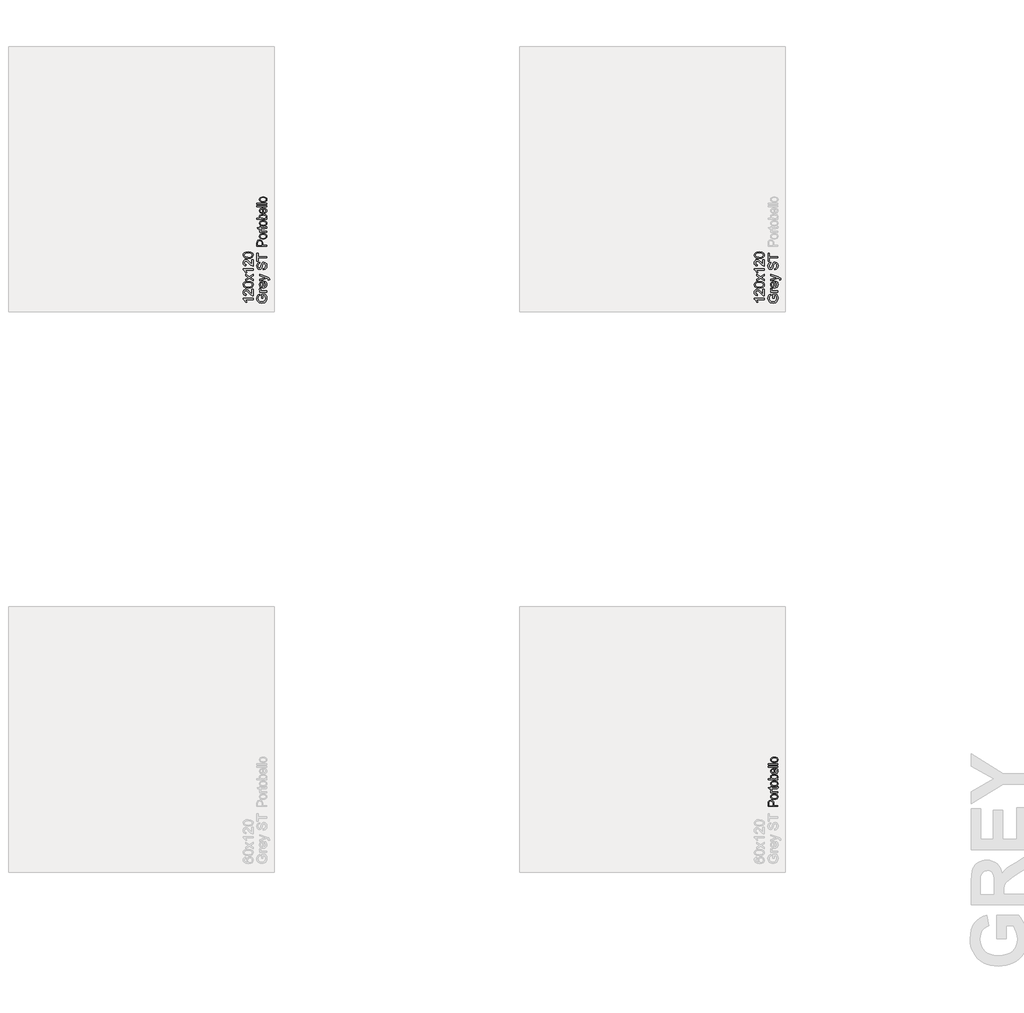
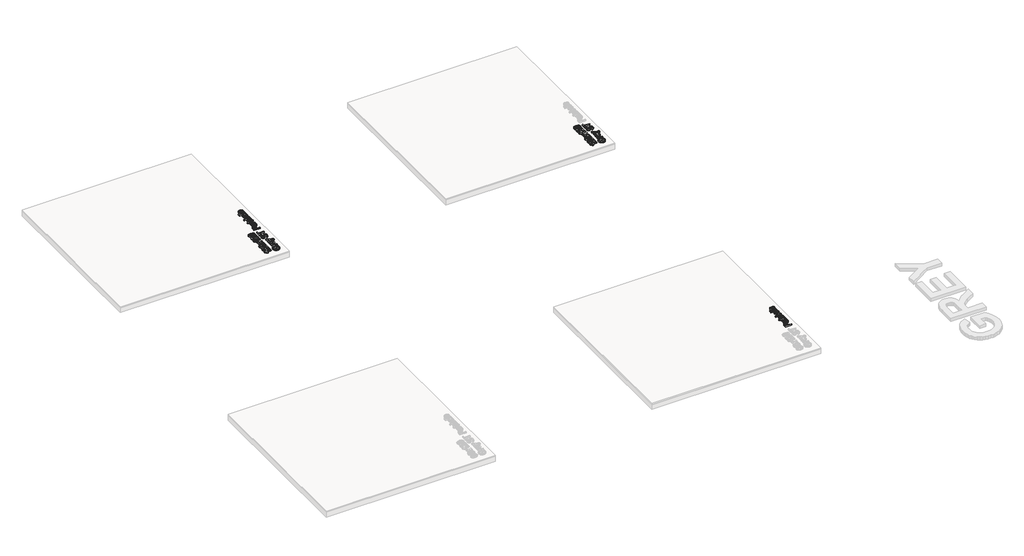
# One storey, part 11 of 12: 6 proxies.
"""IFC4 building model written with IfcOpenShell, lengths in millimetres."""

import ifcopenshell
import ifcopenshell.guid

model = None  # the IFC model being written
_history = None  # IfcOwnerHistory: only IFC2X3 demands one
_inside = {}  # id of a spatial element -> (the spatial element, [elements in it])
_under = {}  # id of a project, library or spatial element -> (it, [spatial elements below it])
_declared = {}  # id of a project -> (the project, [libraries it declares])
_typed = {}  # id of a type object -> (the type object, [elements of that type])
_made_of = {}  # id of a material, layer set ... -> (it, [elements and type objects made of it])


def new_model(schema):
    """Start an empty IFC model of exactly this schema.

    Asked for "IFC4X3", IfcOpenShell would pick the latest addendum, in which some entities
    have other attributes; the version numbers below select the first issue.
    IFC2X3 requires an IfcOwnerHistory on every rooted entity: one is made here for all.
    """
    global model, _history
    if schema == "IFC4X3":
        model = ifcopenshell.file(schema_version=(4, 3, 0, 0))
    else:
        model = ifcopenshell.file(schema=schema)
    _inside.clear()
    _under.clear()
    _declared.clear()
    _typed.clear()
    _made_of.clear()
    _history = None
    if model.schema == "IFC2X3":
        org = make("IfcOrganization", Name="unknown")
        user = make(
            "IfcPersonAndOrganization",
            ThePerson=make("IfcPerson", FamilyName="unknown"),
            TheOrganization=org,
        )
        app = make(
            "IfcApplication",
            ApplicationDeveloper=org,
            Version="unknown",
            ApplicationFullName="unknown",
            ApplicationIdentifier="unknown",
        )
        _history = make(
            "IfcOwnerHistory",
            OwningUser=user,
            OwningApplication=app,
            ChangeAction="ADDED",
            CreationDate=0,
        )
    return model


def make(cls, **values):
    """One entity of the class cls with the attributes given. An attribute that is None is left unset."""
    return model.create_entity(
        cls, **{name: value for name, value in values.items() if value is not None}
    )


def rooted(cls, **values):
    """An entity with a GlobalId (a new one), such as an element, a storey or a relation."""
    return make(cls, GlobalId=ifcopenshell.guid.new(), OwnerHistory=_history, **values)


def si_unit(unit_type, name, prefix=None):
    """IfcSIUnit, for example si_unit("LENGTHUNIT", "METRE", prefix="MILLI")."""
    return make("IfcSIUnit", UnitType=unit_type, Prefix=prefix, Name=name)


def assignment(units):
    """IfcUnitAssignment: the units of a project."""
    return None if units is None else make("IfcUnitAssignment", Units=units)


def point(xyz):
    """IfcCartesianPoint."""
    return None if xyz is None else make("IfcCartesianPoint", Coordinates=xyz)


def direction(xyz):
    """IfcDirection."""
    return None if xyz is None else make("IfcDirection", DirectionRatios=xyz)


def frame(location, z_axis=None, x_axis=None):
    """IfcAxis2Placement3D, a coordinate frame: its origin and axes. An axis left out is left unset."""
    return make(
        "IfcAxis2Placement3D",
        Location=point(location),
        Axis=direction(z_axis),
        RefDirection=direction(x_axis),
    )


def origin():
    """The frame at (0, 0, 0) with its axes left unset."""
    return frame((0.0, 0.0, 0.0))


def place(relative_to, where):
    """IfcLocalPlacement: puts the frame where relative to a parent placement (None: the world)."""
    return make(
        "IfcLocalPlacement", PlacementRelTo=relative_to, RelativePlacement=where
    )


def context(
    kind, dimensions, precision=None, world=None, true_north=None, identifier=None
):
    """IfcGeometricRepresentationContext, for example the 3D "Model" context."""
    return make(
        "IfcGeometricRepresentationContext",
        ContextIdentifier=identifier,
        ContextType=kind,
        CoordinateSpaceDimension=dimensions,
        Precision=precision,
        WorldCoordinateSystem=world,
        TrueNorth=true_north,
    )


def project(units=None, contexts=None):
    """IfcProject with its units and contexts."""
    return rooted(
        "IfcProject",
        Name="project",
        RepresentationContexts=contexts,
        UnitsInContext=assignment(units),
    )


def spatial(cls, under=None, at=None, **own):
    """A site, building, storey or space (cls), placed at a placement, below another one or the project."""
    s = rooted(cls, ObjectPlacement=at, **own)
    if under is not None:
        _under.setdefault(under.id(), (under, []))[1].append(s)
    return s


def polyline(points):
    """IfcPolyline through the points."""
    return make("IfcPolyline", Points=[point(p) for p in points])


def outline(outer, holes=None, kind="AREA"):
    """IfcArbitraryClosedProfileDef: a profile drawn as a closed curve; with holes, ...WithVoids."""
    if holes is None:
        return make("IfcArbitraryClosedProfileDef", ProfileType=kind, OuterCurve=outer)
    return make(
        "IfcArbitraryProfileDefWithVoids",
        ProfileType=kind,
        OuterCurve=outer,
        InnerCurves=holes,
    )


def extrude(swept, where, along, depth):
    """IfcExtrudedAreaSolid: the profile swept, set in the frame where, extruded along a direction by depth."""
    return make(
        "IfcExtrudedAreaSolid",
        SweptArea=swept,
        Position=where,
        ExtrudedDirection=direction(along),
        Depth=depth,
    )


def shape(context_of_items, identifier, shape_type, items):
    """IfcShapeRepresentation: the items that make up one representation, for example the "Body"."""
    return make(
        "IfcShapeRepresentation",
        ContextOfItems=context_of_items,
        RepresentationIdentifier=identifier,
        RepresentationType=shape_type,
        Items=items,
    )


def made_of(thing, what):
    """Note that an element or type object is made of a material, layer set ...; save() writes the relation."""
    if what is not None:
        _made_of.setdefault(what.id(), (what, []))[1].append(thing)
    return thing


def element(
    cls,
    number,
    at=None,
    inside=None,
    cuts=None,
    type_object=None,
    material=None,
    context=None,
    identifier="Body",
    shape_type=None,
    held_by="IfcProductDefinitionShape",
    body=None,
    shapes=None,
    **own,
):
    """One element of the class cls, such as IfcWall. Its Tag is "e" and its number.

    at: its placement. inside: the storey or other place that contains it. cuts: it is an
    opening in that element (IfcRelVoidsElement). A single representation is given by context,
    identifier, shape_type and body (its items); several are given by shapes. held_by: the class
    of the entity that holds the representations. save() writes the other relations.
    """
    e = rooted(cls, Tag="e%d" % number, ObjectPlacement=at, **own)
    if body is not None:
        shapes = [shape(context, identifier, shape_type, body)]
    if shapes is not None:
        e.Representation = make(held_by, Representations=shapes)
    if inside is not None:
        _inside.setdefault(inside.id(), (inside, []))[1].append(e)
    if cuts is not None:
        rooted(
            "IfcRelVoidsElement", RelatingBuildingElement=cuts, RelatedOpeningElement=e
        )
    if type_object is not None:
        _typed.setdefault(type_object.id(), (type_object, []))[1].append(e)
    return made_of(e, material)


def aggregate(whole, parts):
    """IfcRelAggregates: a whole, such as a stair, and the parts it consists of."""
    return rooted("IfcRelAggregates", RelatingObject=whole, RelatedObjects=parts)


def save(model, path):
    """Write the relations noted so far, then the file.

    IfcRelAggregates (storeys below a building ...), IfcRelContainedInSpatialStructure (elements
    in a storey), IfcRelDefinesByType, IfcRelAssociatesMaterial and IfcRelDeclares: one each for
    every whole, place, type object, material and project.
    """
    for whole, parts in _under.values():
        aggregate(whole, parts)
    for where, things in _inside.values():
        rooted(
            "IfcRelContainedInSpatialStructure",
            RelatedElements=things,
            RelatingStructure=where,
        )
    for kind, things in _typed.values():
        rooted("IfcRelDefinesByType", RelatedObjects=things, RelatingType=kind)
    for what, things in _made_of.values():
        rooted("IfcRelAssociatesMaterial", RelatedObjects=things, RelatingMaterial=what)
    for by, libraries in _declared.values():
        rooted("IfcRelDeclares", RelatingContext=by, RelatedDefinitions=libraries)
    model.write(path)


model = new_model("IFC4")

# Units and contexts
model_context = context("Model", 3, world=origin())
ifc_project = project(units=[si_unit("LENGTHUNIT", "METRE", prefix="MILLI")], contexts=[model_context])

# Site, building, storey
site = spatial("IfcSite", under=ifc_project)
building = spatial("IfcBuilding", under=site)
storey = spatial("IfcBuildingStorey", under=building, Name="PORTOBELLO - SHOWROOM", Elevation=0.0)

# Proxies
placement = place(None, origin())
element("IfcBuildingElementProxy", 1, Name="10mm Arial", ObjectType="10mm Arial", at=placement, inside=storey, context=model_context, shape_type="SweptSolid", body=[
    extrude(outline(polyline([(-5723.7951181, 21495.7002457), (-5736.3521569, 21495.7002457), (-5736.3521569, 21536.5106217), (-5698.8036679, 21536.5106217), (-5686.9578677, 21516.3629511), (-5682.9847421, 21495.0625836), (-5684.563569, 21480.9757689), (-5689.3000497, 21468.2439862), (-5697.0286373, 21457.6673788), (-5707.5837849, 21450.0460901), (-5720.2450569, 21445.4383681), (-5734.2920177, 21443.9024608), (-5748.4401461, 21445.4322368), (-5761.6011245, 21450.0215647), (-5772.64065, 21457.4803721), (-5780.4244199, 21467.6185868), (-5785.0413389, 21479.9671591), (-5786.580312, 21494.0570395), (-5783.0118566, 21513.701938), (-5773.0790427, 21527.4729874), (-5756.4630393, 21535.0636192), (-5753.2011523, 21523.4875991), (-5764.8139606, 21517.7609027), (-5771.5094129, 21507.9752416), (-5774.0232732, 21493.8608358), (-5771.3132092, 21477.7843926), (-5764.2008239, 21466.8460346), (-5754.5255274, 21460.3835742), (-5734.8070525, 21456.4594996), (-5712.9180738, 21461.1806518), (-5699.8214748, 21474.914913), (-5695.5417809, 21494.0570395), (-5698.7668797, 21511.2371287), (-5705.646273, 21523.953583), (-5723.7951181, 21523.953583), (-5723.7951181, 21495.7002457)])), frame((0.0, 0.0, 17.0), z_axis=(0.0, 0.0, 1.0), x_axis=(1.0, 0.0, 0.0)), (0.0, 0.0, 1.0), 20.0),
    extrude(outline(polyline([(-5684.554372, 21555.3461799), (-5758.3269747, 21555.3461799), (-5758.3269747, 21566.3335888), (-5747.4131422, 21566.3335888), (-5757.4685834, 21574.1326871), (-5759.8966046, 21581.9808363), (-5756.0215809, 21594.586926), (-5744.7643918, 21590.3930713), (-5747.3395658, 21581.5639034), (-5744.8624937, 21574.4637809), (-5737.9953631, 21569.9388324), (-5723.3291342, 21567.9032186), (-5684.554372, 21567.9032186), (-5684.554372, 21555.3461799)])), frame((0.0, 0.0, 17.0), z_axis=(0.0, 0.0, 1.0), x_axis=(1.0, 0.0, 0.0)), (0.0, 0.0, 1.0), 20.0),
    extrude(outline(polyline([(-5706.5291898, 21654.0857074), (-5704.95956, 21666.3974915), (-5695.6828023, 21661.9614478), (-5688.7482267, 21654.882785), (-5684.4256133, 21645.3209189), (-5682.9847421, 21633.4352647), (-5685.4710113, 21618.7015908), (-5692.9298187, 21607.364694), (-5704.8767865, 21600.1358128), (-5720.8275367, 21597.7261857), (-5737.3147814, 21600.1603383), (-5749.6449596, 21607.4627959), (-5757.3336933, 21618.6464085), (-5759.8966046, 21632.7240262), (-5757.3398247, 21646.3632512), (-5749.6694851, 21657.2617553), (-5737.3638324, 21664.407863), (-5720.9011131, 21666.789899), (-5717.5165987, 21666.7163226), (-5717.5165987, 21610.2832245), (-5708.1172137, 21612.4567939), (-5701.2071636, 21617.5059743), (-5696.9581266, 21624.7931035), (-5695.5417809, 21633.6805194), (-5698.1660058, 21645.9923035), (-5706.5291898, 21654.0857074)]), holes=[polyline([(-5730.0736375, 21610.2832245), (-5730.0736375, 21654.2328602), (-5741.4534539, 21649.2051396), (-5745.8680378, 21641.8842879), (-5747.3395658, 21632.6749753), (-5742.642939, 21617.2116687), (-5737.1523002, 21612.3464294), (-5730.0736375, 21610.2832245)])]), frame((0.0, 0.0, 17.0), z_axis=(0.0, 0.0, 1.0), x_axis=(1.0, 0.0, 0.0)), (0.0, 0.0, 1.0), 20.0),
    extrude(outline(polyline([(-5656.3010347, 21679.3469377), (-5668.3920896, 21677.7773079), (-5667.2884437, 21684.1539291), (-5668.6741325, 21690.1136174), (-5672.5368934, 21693.7679119), (-5681.7829943, 21697.2014772), (-5684.8241521, 21698.1824959), (-5758.3269747, 21671.4987885), (-5758.3269747, 21684.7180149), (-5717.3449205, 21698.8937344), (-5700.9619089, 21703.8233531), (-5715.4564596, 21708.7529719), (-5758.3269747, 21723.2965734), (-5758.3269747, 21736.4176979), (-5682.7885384, 21710.7395346), (-5666.4055269, 21704.0686078), (-5657.5518335, 21696.7845443), (-5654.7314049, 21687.0234087), (-5656.3010347, 21679.3469377)])), frame((0.0, 0.0, 17.0), z_axis=(0.0, 0.0, 1.0), x_axis=(1.0, 0.0, 0.0)), (0.0, 0.0, 1.0), 20.0),
    extrude(outline(polyline([(-5719.0862286, 21782.9425076), (-5719.0862286, 21795.4995463), (-5706.5169271, 21799.5462483), (-5698.570676, 21809.4300112), (-5695.5417809, 21824.4886476), (-5697.834912, 21837.609772), (-5704.1379568, 21846.0833207), (-5712.5624545, 21848.8669611), (-5720.398341, 21846.7822965), (-5726.1005119, 21838.2474342), (-5730.8952406, 21819.963699), (-5737.0879209, 21800.2820123), (-5746.4321235, 21789.6011717), (-5758.9155859, 21786.0817673), (-5773.1280937, 21790.4350375), (-5783.1590094, 21803.1514918), (-5786.580312, 21821.7663208), (-5782.9995939, 21841.6319485), (-5772.4781688, 21854.8757004), (-5756.7573449, 21859.85437), (-5756.7573449, 21847.2973313), (-5764.2498748, 21844.9919374), (-5769.6577402, 21840.184946), (-5774.0232732, 21822.2568301), (-5769.7067911, 21804.2796633), (-5759.2834679, 21798.638806), (-5750.5769274, 21802.636457), (-5743.562644, 21823.1397469), (-5737.2595991, 21845.3598194), (-5727.0815306, 21857.512188), (-5712.8812856, 21861.4239999), (-5697.8594375, 21856.9235768), (-5686.896554, 21843.9741306), (-5682.9847421, 21824.9791569), (-5687.2031223, 21802.5506179), (-5699.9073139, 21788.3626356), (-5719.0862286, 21782.9425076)])), frame((0.0, 0.0, 17.0), z_axis=(0.0, 0.0, 1.0), x_axis=(1.0, 0.0, 0.0)), (0.0, 0.0, 1.0), 20.0),
    extrude(outline(polyline([(-5684.554372, 21905.3736356), (-5772.4536433, 21905.3736356), (-5772.4536433, 21872.4114088), (-5785.0106821, 21872.4114088), (-5785.0106821, 21950.8929011), (-5772.4536433, 21950.8929011), (-5772.4536433, 21917.9306743), (-5684.554372, 21917.9306743), (-5684.554372, 21905.3736356)])), frame((0.0, 0.0, 17.0), z_axis=(0.0, 0.0, 1.0), x_axis=(1.0, 0.0, 0.0)), (0.0, 0.0, 1.0), 20.0),
])
element("IfcBuildingElementProxy", 2, Name="10mm Arial", ObjectType="10mm Arial", at=placement, inside=storey, context=model_context, shape_type="SweptSolid", body=[
    extrude(outline(polyline([(-5824.554372, 21490.9913562), (-5824.554372, 21478.4343174), (-5902.8396605, 21478.4343174), (-5894.3661119, 21466.5394662), (-5888.0262789, 21453.3202399), (-5899.8966046, 21453.3202399), (-5911.6443029, 21471.7266024), (-5925.0106821, 21482.8979523), (-5925.0106821, 21490.9913562), (-5824.554372, 21490.9913562)])), frame((0.0, 0.0, 17.0), z_axis=(0.0, 0.0, 1.0), x_axis=(1.0, 0.0, 0.0)), (0.0, 0.0, 1.0), 20.0),
    extrude(outline(polyline([(-5837.1114107, 21585.169147), (-5824.554372, 21585.169147), (-5824.554372, 21519.2446934), (-5833.2118616, 21520.5935941), (-5846.5414525, 21528.2332768), (-5861.0973168, 21543.9663635), (-5882.0175396, 21565.634613), (-5896.2423101, 21571.0424783), (-5907.7570165, 21565.9289186), (-5912.4536433, 21552.5748022), (-5907.8673811, 21538.6566), (-5895.187715, 21533.371362), (-5896.7573449, 21520.8143233), (-5908.9035821, 21523.8585468), (-5917.7756695, 21530.4405688), (-5923.201929, 21540.2170328), (-5925.0106821, 21552.8445823), (-5922.9995939, 21565.5641023), (-5916.9663291, 21575.3221722), (-5907.9532203, 21581.5301809), (-5897.0025995, 21583.5995171), (-5885.0954856, 21581.3676997), (-5872.7837015, 21573.9487461), (-5855.5790869, 21555.9593165), (-5843.5002947, 21541.5138169), (-5837.1114107, 21535.8484341), (-5837.1114107, 21585.169147)])), frame((0.0, 0.0, 17.0), z_axis=(0.0, 0.0, 1.0), x_axis=(1.0, 0.0, 0.0)), (0.0, 0.0, 1.0), 20.0),
    extrude(outline(polyline([(-5873.9731866, 21597.7261857), (-5902.8764487, 21601.4172684), (-5919.5415031, 21612.3801519), (-5925.0106821, 21630.6884125), (-5921.7733205, 21645.3546414), (-5912.4413806, 21655.483659), (-5897.578948, 21661.3697709), (-5873.9731866, 21663.6506393), (-5845.1925519, 21659.9963448), (-5828.4907093, 21649.0702495), (-5824.3612339, 21640.8388899), (-5822.9847421, 21630.6884125), (-5825.3759751, 21617.6408644), (-5832.549674, 21607.732576), (-5849.5396908, 21600.2277833), (-5873.9731866, 21597.7261857)]), holes=[polyline([(-5873.9977121, 21610.2832245), (-5854.2455147, 21611.7547525), (-5842.8135817, 21616.1693364), (-5837.3597311, 21622.7421614), (-5835.5417809, 21630.6884125), (-5837.3658624, 21638.6346636), (-5842.8381071, 21645.2074886), (-5854.2761715, 21649.6220725), (-5873.9977121, 21651.0936005), (-5893.3053855, 21649.6711234), (-5904.8262233, 21645.4036923), (-5910.5467883, 21638.8431301), (-5912.4536433, 21630.5412597), (-5910.7736489, 21622.6808477), (-5905.7336656, 21616.3655401), (-5893.4954579, 21611.8038034), (-5873.9977121, 21610.2832245)])]), frame((0.0, 0.0, 17.0), z_axis=(0.0, 0.0, 1.0), x_axis=(1.0, 0.0, 0.0)), (0.0, 0.0, 1.0), 20.0),
    extrude(outline(polyline([(-5824.554372, 21669.9291586), (-5861.6614025, 21696.7600188), (-5898.3269747, 21671.4987885), (-5898.3269747, 21686.5574248), (-5880.6441135, 21698.7465816), (-5872.3299804, 21704.4610153), (-5879.14806, 21709.4151595), (-5898.3269747, 21723.2965734), (-5898.3269747, 21738.4042607), (-5861.6368771, 21711.8677061), (-5824.554372, 21737.423242), (-5824.554372, 21722.3400802), (-5846.8725463, 21706.9380874), (-5850.9682992, 21704.1421842), (-5824.554372, 21685.0368459), (-5824.554372, 21669.9291586)])), frame((0.0, 0.0, 17.0), z_axis=(0.0, 0.0, 1.0), x_axis=(1.0, 0.0, 0.0)), (0.0, 0.0, 1.0), 20.0),
    extrude(outline(polyline([(-5824.554372, 21792.3602866), (-5824.554372, 21779.8032479), (-5902.8396605, 21779.8032479), (-5894.3661119, 21767.9083967), (-5888.0262789, 21754.6891703), (-5899.8966046, 21754.6891703), (-5911.6443029, 21773.0955328), (-5925.0106821, 21784.2668827), (-5925.0106821, 21792.3602866), (-5824.554372, 21792.3602866)])), frame((0.0, 0.0, 17.0), z_axis=(0.0, 0.0, 1.0), x_axis=(1.0, 0.0, 0.0)), (0.0, 0.0, 1.0), 20.0),
    extrude(outline(polyline([(-5837.1114107, 21886.5380774), (-5824.554372, 21886.5380774), (-5824.554372, 21820.6136239), (-5833.2118616, 21821.9625245), (-5846.5414525, 21829.6022073), (-5861.0973168, 21845.3352939), (-5882.0175396, 21867.0035435), (-5896.2423101, 21872.4114088), (-5907.7570165, 21867.2978491), (-5912.4536433, 21853.9437326), (-5907.8673811, 21840.0255305), (-5895.187715, 21834.7402925), (-5896.7573449, 21822.1832537), (-5908.9035821, 21825.2274772), (-5917.7756695, 21831.8094993), (-5923.201929, 21841.5859633), (-5925.0106821, 21854.2135128), (-5922.9995939, 21866.9330327), (-5916.9663291, 21876.6911027), (-5907.9532203, 21882.8991113), (-5897.0025995, 21884.9684476), (-5885.0954856, 21882.7366301), (-5872.7837015, 21875.3176766), (-5855.5790869, 21857.328247), (-5843.5002947, 21842.8827473), (-5837.1114107, 21837.2173646), (-5837.1114107, 21886.5380774)])), frame((0.0, 0.0, 17.0), z_axis=(0.0, 0.0, 1.0), x_axis=(1.0, 0.0, 0.0)), (0.0, 0.0, 1.0), 20.0),
    extrude(outline(polyline([(-5873.9731866, 21899.0951162), (-5902.8764487, 21902.7861989), (-5919.5415031, 21913.7490823), (-5925.0106821, 21932.0573429), (-5921.7733205, 21946.7235718), (-5912.4413806, 21956.8525894), (-5897.578948, 21962.7387013), (-5873.9731866, 21965.0195697), (-5845.1925519, 21961.3652752), (-5828.4907093, 21950.43918), (-5824.3612339, 21942.2078203), (-5822.9847421, 21932.0573429), (-5825.3759751, 21919.0097948), (-5832.549674, 21909.1015064), (-5849.5396908, 21901.5967137), (-5873.9731866, 21899.0951162)]), holes=[polyline([(-5873.9977121, 21911.6521549), (-5854.2455147, 21913.1236829), (-5842.8135817, 21917.5382669), (-5837.3597311, 21924.1110918), (-5835.5417809, 21932.0573429), (-5837.3658624, 21940.003594), (-5842.8381071, 21946.576419), (-5854.2761715, 21950.991003), (-5873.9977121, 21952.4625309), (-5893.3053855, 21951.0400539), (-5904.8262233, 21946.7726227), (-5910.5467883, 21940.2120605), (-5912.4536433, 21931.9101901), (-5910.7736489, 21924.0497782), (-5905.7336656, 21917.7344706), (-5893.4954579, 21913.1727339), (-5873.9977121, 21911.6521549)])]), frame((0.0, 0.0, 17.0), z_axis=(0.0, 0.0, 1.0), x_axis=(1.0, 0.0, 0.0)), (0.0, 0.0, 1.0), 20.0),
])
element("IfcBuildingElementProxy", 3, Name="10mm Arial", ObjectType="10mm Arial", at=placement, inside=storey, context=model_context, shape_type="SweptSolid", body=[
    extrude(outline(polyline([(-10923.8201342, 21495.7002457), (-10936.377173, 21495.7002457), (-10936.377173, 21536.5106217), (-10898.828684, 21536.5106217), (-10886.9828837, 21516.3629511), (-10883.0097582, 21495.0625836), (-10884.5885851, 21480.9757689), (-10889.3250658, 21468.2439862), (-10897.0536534, 21457.6673788), (-10907.6088009, 21450.0460901), (-10920.2700729, 21445.4383681), (-10934.3170338, 21443.9024608), (-10948.4651622, 21445.4322368), (-10961.6261406, 21450.0215647), (-10972.6656661, 21457.4803721), (-10980.449436, 21467.6185868), (-10985.066355, 21479.9671591), (-10986.605328, 21494.0570395), (-10983.0368727, 21513.701938), (-10973.1040588, 21527.4729874), (-10956.4880554, 21535.0636192), (-10953.2261683, 21523.4875991), (-10964.8389767, 21517.7609027), (-10971.534429, 21507.9752416), (-10974.0482893, 21493.8608358), (-10971.3382252, 21477.7843926), (-10964.22584, 21466.8460346), (-10954.5505435, 21460.3835742), (-10934.8320686, 21456.4594996), (-10912.9430899, 21461.1806518), (-10899.8464908, 21474.914913), (-10895.566797, 21494.0570395), (-10898.7918958, 21511.2371287), (-10905.6712891, 21523.953583), (-10923.8201342, 21523.953583), (-10923.8201342, 21495.7002457)])), frame((0.0, 0.0, 17.0), z_axis=(0.0, 0.0, 1.0), x_axis=(1.0, 0.0, 0.0)), (0.0, 0.0, 1.0), 20.0),
    extrude(outline(polyline([(-10884.579388, 21555.3461799), (-10958.3519908, 21555.3461799), (-10958.3519908, 21566.3335888), (-10947.4381583, 21566.3335888), (-10957.4935995, 21574.1326871), (-10959.9216207, 21581.9808363), (-10956.046597, 21594.586926), (-10944.7894079, 21590.3930713), (-10947.3645819, 21581.5639034), (-10944.8875098, 21574.4637809), (-10938.0203792, 21569.9388324), (-10923.3541503, 21567.9032186), (-10884.579388, 21567.9032186), (-10884.579388, 21555.3461799)])), frame((0.0, 0.0, 17.0), z_axis=(0.0, 0.0, 1.0), x_axis=(1.0, 0.0, 0.0)), (0.0, 0.0, 1.0), 20.0),
    extrude(outline(polyline([(-10906.5542059, 21654.0857074), (-10904.984576, 21666.3974915), (-10895.7078184, 21661.9614478), (-10888.7732428, 21654.882785), (-10884.4506293, 21645.3209189), (-10883.0097582, 21633.4352647), (-10885.4960273, 21618.7015908), (-10892.9548348, 21607.364694), (-10904.9018026, 21600.1358128), (-10920.8525528, 21597.7261857), (-10937.3397975, 21600.1603383), (-10949.6699757, 21607.4627959), (-10957.3587094, 21618.6464085), (-10959.9216207, 21632.7240262), (-10957.3648408, 21646.3632512), (-10949.6945012, 21657.2617553), (-10937.3888484, 21664.407863), (-10920.9261292, 21666.789899), (-10917.5416148, 21666.7163226), (-10917.5416148, 21610.2832245), (-10908.1422298, 21612.4567939), (-10901.2321797, 21617.5059743), (-10896.9831426, 21624.7931035), (-10895.566797, 21633.6805194), (-10898.1910219, 21645.9923035), (-10906.5542059, 21654.0857074)]), holes=[polyline([(-10930.0986536, 21610.2832245), (-10930.0986536, 21654.2328602), (-10941.47847, 21649.2051396), (-10945.8930539, 21641.8842879), (-10947.3645819, 21632.6749753), (-10942.6679551, 21617.2116687), (-10937.1773163, 21612.3464294), (-10930.0986536, 21610.2832245)])]), frame((0.0, 0.0, 17.0), z_axis=(0.0, 0.0, 1.0), x_axis=(1.0, 0.0, 0.0)), (0.0, 0.0, 1.0), 20.0),
    extrude(outline(polyline([(-10856.3260508, 21679.3469377), (-10868.4171057, 21677.7773079), (-10867.3134597, 21684.1539291), (-10868.6991486, 21690.1136174), (-10872.5619095, 21693.7679119), (-10881.8080103, 21697.2014772), (-10884.8491682, 21698.1824959), (-10958.3519908, 21671.4987885), (-10958.3519908, 21684.7180149), (-10917.3699365, 21698.8937344), (-10900.986925, 21703.8233531), (-10915.4814756, 21708.7529719), (-10958.3519908, 21723.2965734), (-10958.3519908, 21736.4176979), (-10882.8135545, 21710.7395346), (-10866.4305429, 21704.0686078), (-10857.5768496, 21696.7845443), (-10854.756421, 21687.0234087), (-10856.3260508, 21679.3469377)])), frame((0.0, 0.0, 17.0), z_axis=(0.0, 0.0, 1.0), x_axis=(1.0, 0.0, 0.0)), (0.0, 0.0, 1.0), 20.0),
    extrude(outline(polyline([(-10919.1112447, 21782.9425076), (-10919.1112447, 21795.4995463), (-10906.5419432, 21799.5462483), (-10898.5956921, 21809.4300112), (-10895.566797, 21824.4886476), (-10897.8599281, 21837.609772), (-10904.1629729, 21846.0833207), (-10912.5874706, 21848.8669611), (-10920.4233571, 21846.7822965), (-10926.125528, 21838.2474342), (-10930.9202567, 21819.963699), (-10937.112937, 21800.2820123), (-10946.4571396, 21789.6011717), (-10958.940602, 21786.0817673), (-10973.1531097, 21790.4350375), (-10983.1840255, 21803.1514918), (-10986.605328, 21821.7663208), (-10983.0246099, 21841.6319485), (-10972.5031849, 21854.8757004), (-10956.782361, 21859.85437), (-10956.782361, 21847.2973313), (-10964.2748909, 21844.9919374), (-10969.6827563, 21840.184946), (-10974.0482893, 21822.2568301), (-10969.7318072, 21804.2796633), (-10959.308484, 21798.638806), (-10950.6019434, 21802.636457), (-10943.5876601, 21823.1397469), (-10937.2846152, 21845.3598194), (-10927.1065467, 21857.512188), (-10912.9063017, 21861.4239999), (-10897.8844535, 21856.9235768), (-10886.9215701, 21843.9741306), (-10883.0097582, 21824.9791569), (-10887.2281384, 21802.5506179), (-10899.93233, 21788.3626356), (-10919.1112447, 21782.9425076)])), frame((0.0, 0.0, 17.0), z_axis=(0.0, 0.0, 1.0), x_axis=(1.0, 0.0, 0.0)), (0.0, 0.0, 1.0), 20.0),
    extrude(outline(polyline([(-10884.579388, 21905.3736356), (-10972.4786594, 21905.3736356), (-10972.4786594, 21872.4114088), (-10985.0356982, 21872.4114088), (-10985.0356982, 21950.8929011), (-10972.4786594, 21950.8929011), (-10972.4786594, 21917.9306743), (-10884.579388, 21917.9306743), (-10884.579388, 21905.3736356)])), frame((0.0, 0.0, 17.0), z_axis=(0.0, 0.0, 1.0), x_axis=(1.0, 0.0, 0.0)), (0.0, 0.0, 1.0), 20.0),
])
element("IfcBuildingElementProxy", 4, Name="10mm Arial", ObjectType="10mm Arial", at=placement, inside=storey, context=model_context, shape_type="SweptSolid", body=[
    extrude(outline(polyline([(-11024.579388, 21490.9913562), (-11024.579388, 21478.4343174), (-11102.8646766, 21478.4343174), (-11094.391128, 21466.5394662), (-11088.0512949, 21453.3202399), (-11099.9216207, 21453.3202399), (-11111.669319, 21471.7266024), (-11125.0356982, 21482.8979523), (-11125.0356982, 21490.9913562), (-11024.579388, 21490.9913562)])), frame((0.0, 0.0, 17.0), z_axis=(0.0, 0.0, 1.0), x_axis=(1.0, 0.0, 0.0)), (0.0, 0.0, 1.0), 20.0),
    extrude(outline(polyline([(-11037.1364268, 21585.169147), (-11024.579388, 21585.169147), (-11024.579388, 21519.2446934), (-11033.2368777, 21520.5935941), (-11046.5664686, 21528.2332768), (-11061.1223329, 21543.9663635), (-11082.0425557, 21565.634613), (-11096.2673262, 21571.0424783), (-11107.7820326, 21565.9289186), (-11112.4786594, 21552.5748022), (-11107.8923972, 21538.6566), (-11095.2127311, 21533.371362), (-11096.782361, 21520.8143233), (-11108.9285982, 21523.8585468), (-11117.8006856, 21530.4405688), (-11123.226945, 21540.2170328), (-11125.0356982, 21552.8445823), (-11123.0246099, 21565.5641023), (-11116.9913452, 21575.3221722), (-11107.9782363, 21581.5301809), (-11097.0276156, 21583.5995171), (-11085.1205017, 21581.3676997), (-11072.8087176, 21573.9487461), (-11055.604103, 21555.9593165), (-11043.5253108, 21541.5138169), (-11037.1364268, 21535.8484341), (-11037.1364268, 21585.169147)])), frame((0.0, 0.0, 17.0), z_axis=(0.0, 0.0, 1.0), x_axis=(1.0, 0.0, 0.0)), (0.0, 0.0, 1.0), 20.0),
    extrude(outline(polyline([(-11073.9982027, 21597.7261857), (-11102.9014648, 21601.4172684), (-11119.5665192, 21612.3801519), (-11125.0356982, 21630.6884125), (-11121.7983366, 21645.3546414), (-11112.4663967, 21655.483659), (-11097.6039641, 21661.3697709), (-11073.9982027, 21663.6506393), (-11045.217568, 21659.9963448), (-11028.5157254, 21649.0702495), (-11024.38625, 21640.8388899), (-11023.0097582, 21630.6884125), (-11025.4009912, 21617.6408644), (-11032.5746901, 21607.732576), (-11049.5647069, 21600.2277833), (-11073.9982027, 21597.7261857)]), holes=[polyline([(-11074.0227282, 21610.2832245), (-11054.2705307, 21611.7547525), (-11042.8385977, 21616.1693364), (-11037.3847472, 21622.7421614), (-11035.566797, 21630.6884125), (-11037.3908785, 21638.6346636), (-11042.8631232, 21645.2074886), (-11054.3011876, 21649.6220725), (-11074.0227282, 21651.0936005), (-11093.3304016, 21649.6711234), (-11104.8512394, 21645.4036923), (-11110.5718044, 21638.8431301), (-11112.4786594, 21630.5412597), (-11110.798665, 21622.6808477), (-11105.7586816, 21616.3655401), (-11093.5204739, 21611.8038034), (-11074.0227282, 21610.2832245)])]), frame((0.0, 0.0, 17.0), z_axis=(0.0, 0.0, 1.0), x_axis=(1.0, 0.0, 0.0)), (0.0, 0.0, 1.0), 20.0),
    extrude(outline(polyline([(-11024.579388, 21669.9291586), (-11061.6864186, 21696.7600188), (-11098.3519908, 21671.4987885), (-11098.3519908, 21686.5574248), (-11080.6691296, 21698.7465816), (-11072.3549965, 21704.4610153), (-11079.1730761, 21709.4151595), (-11098.3519908, 21723.2965734), (-11098.3519908, 21738.4042607), (-11061.6618932, 21711.8677061), (-11024.579388, 21737.423242), (-11024.579388, 21722.3400802), (-11046.8975624, 21706.9380874), (-11050.9933153, 21704.1421842), (-11024.579388, 21685.0368459), (-11024.579388, 21669.9291586)])), frame((0.0, 0.0, 17.0), z_axis=(0.0, 0.0, 1.0), x_axis=(1.0, 0.0, 0.0)), (0.0, 0.0, 1.0), 20.0),
    extrude(outline(polyline([(-11024.579388, 21792.3602866), (-11024.579388, 21779.8032479), (-11102.8646766, 21779.8032479), (-11094.391128, 21767.9083967), (-11088.0512949, 21754.6891703), (-11099.9216207, 21754.6891703), (-11111.669319, 21773.0955328), (-11125.0356982, 21784.2668827), (-11125.0356982, 21792.3602866), (-11024.579388, 21792.3602866)])), frame((0.0, 0.0, 17.0), z_axis=(0.0, 0.0, 1.0), x_axis=(1.0, 0.0, 0.0)), (0.0, 0.0, 1.0), 20.0),
    extrude(outline(polyline([(-11037.1364268, 21886.5380774), (-11024.579388, 21886.5380774), (-11024.579388, 21820.6136239), (-11033.2368777, 21821.9625245), (-11046.5664686, 21829.6022073), (-11061.1223329, 21845.3352939), (-11082.0425557, 21867.0035435), (-11096.2673262, 21872.4114088), (-11107.7820326, 21867.2978491), (-11112.4786594, 21853.9437326), (-11107.8923972, 21840.0255305), (-11095.2127311, 21834.7402925), (-11096.782361, 21822.1832537), (-11108.9285982, 21825.2274772), (-11117.8006856, 21831.8094993), (-11123.226945, 21841.5859633), (-11125.0356982, 21854.2135128), (-11123.0246099, 21866.9330327), (-11116.9913452, 21876.6911027), (-11107.9782363, 21882.8991113), (-11097.0276156, 21884.9684476), (-11085.1205017, 21882.7366301), (-11072.8087176, 21875.3176766), (-11055.604103, 21857.328247), (-11043.5253108, 21842.8827473), (-11037.1364268, 21837.2173646), (-11037.1364268, 21886.5380774)])), frame((0.0, 0.0, 17.0), z_axis=(0.0, 0.0, 1.0), x_axis=(1.0, 0.0, 0.0)), (0.0, 0.0, 1.0), 20.0),
    extrude(outline(polyline([(-11073.9982027, 21899.0951162), (-11102.9014648, 21902.7861989), (-11119.5665192, 21913.7490823), (-11125.0356982, 21932.0573429), (-11121.7983366, 21946.7235718), (-11112.4663967, 21956.8525894), (-11097.6039641, 21962.7387013), (-11073.9982027, 21965.0195697), (-11045.217568, 21961.3652752), (-11028.5157254, 21950.43918), (-11024.38625, 21942.2078203), (-11023.0097582, 21932.0573429), (-11025.4009912, 21919.0097948), (-11032.5746901, 21909.1015064), (-11049.5647069, 21901.5967137), (-11073.9982027, 21899.0951162)]), holes=[polyline([(-11074.0227282, 21911.6521549), (-11054.2705307, 21913.1236829), (-11042.8385977, 21917.5382669), (-11037.3847472, 21924.1110918), (-11035.566797, 21932.0573429), (-11037.3908785, 21940.003594), (-11042.8631232, 21946.576419), (-11054.3011876, 21950.991003), (-11074.0227282, 21952.4625309), (-11093.3304016, 21951.0400539), (-11104.8512394, 21946.7726227), (-11110.5718044, 21940.2120605), (-11112.4786594, 21931.9101901), (-11110.798665, 21924.0497782), (-11105.7586816, 21917.7344706), (-11093.5204739, 21913.1727339), (-11074.0227282, 21911.6521549)])]), frame((0.0, 0.0, 17.0), z_axis=(0.0, 0.0, 1.0), x_axis=(1.0, 0.0, 0.0)), (0.0, 0.0, 1.0), 20.0),
])
element("IfcBuildingElementProxy", 5, Name="10mm Arial Narrow", ObjectType="10mm Arial Narrow", at=placement, inside=storey, context=model_context, shape_type="SweptSolid", body=[
    extrude(outline(polyline([(-5684.554372, 16323.3301461), (-5785.2729757, 16323.3301461), (-5785.2729757, 16354.6270308), (-5783.394655, 16370.9227323), (-5773.9142118, 16382.3957184), (-5756.895103, 16386.6853968), (-5744.8192774, 16384.8990884), (-5735.1928837, 16379.5401632), (-5728.8916253, 16369.7963744), (-5726.7912058, 16354.8554752), (-5726.7912058, 16333.0771077), (-5684.554372, 16333.0771077), (-5684.554372, 16323.3301461)]), holes=[polyline([(-5738.1626611, 16333.0771077), (-5738.1626611, 16356.0484627), (-5742.6934753, 16371.9126581), (-5756.362066, 16376.9384352), (-5766.5278424, 16374.4636207), (-5772.3277923, 16368.4859919), (-5773.9015204, 16355.8200183), (-5773.9015204, 16333.0771077), (-5738.1626611, 16333.0771077)])]), frame((0.0, 0.0, 19.0), z_axis=(0.0, 0.0, 1.0), x_axis=(1.0, 0.0, 0.0)), (0.0, 0.0, 1.0), 20.0),
    extrude(outline(polyline([(-5721.1054782, 16394.8078649), (-5737.6962537, 16396.7623337), (-5749.6483385, 16402.6257404), (-5756.8728931, 16411.4843071), (-5759.281078, 16422.4242562), (-5756.8728931, 16433.2372918), (-5749.6483385, 16442.1212412), (-5737.8866241, 16448.060796), (-5721.8669595, 16450.0406476), (-5704.705073, 16448.0956972), (-5692.5626178, 16442.2608461), (-5685.3380632, 16433.411798), (-5682.9298783, 16422.4242562), (-5685.3444089, 16411.563628), (-5692.5880005, 16402.6891971), (-5704.546431, 16396.7781979), (-5721.1054782, 16394.8078649)]), holes=[polyline([(-5721.1308609, 16404.5548265), (-5708.5791095, 16405.8588634), (-5699.7078514, 16409.770974), (-5694.4345929, 16415.6121707), (-5692.67684, 16422.7034661), (-5694.450457, 16429.4235392), (-5699.7713082, 16435.1156125), (-5708.6584304, 16438.9991676), (-5721.1308609, 16440.2936859), (-5733.6445382, 16438.9896491), (-5742.5031049, 16435.0775385), (-5747.7763635, 16429.2363417), (-5749.5341163, 16422.1450464), (-5747.7668449, 16415.3773806), (-5742.4650308, 16409.6948258), (-5733.5969456, 16405.8398263), (-5721.1308609, 16404.5548265)])]), frame((0.0, 0.0, 19.0), z_axis=(0.0, 0.0, 1.0), x_axis=(1.0, 0.0, 0.0)), (0.0, 0.0, 1.0), 20.0),
    extrude(outline(polyline([(-5692.67684, 16521.5183664), (-5682.9298783, 16523.14286), (-5682.9298783, 16515.7818733), (-5685.0493349, 16507.507109), (-5690.8492847, 16503.1920478), (-5705.4951099, 16502.0244431), (-5747.9096227, 16502.0244431), (-5747.9096227, 16493.901975), (-5751.1586099, 16493.901975), (-5746.2851291, 16492.2774814), (-5747.9096227, 16484.713433), (-5745.5871045, 16478.6342734), (-5739.1018214, 16474.7634097), (-5723.6945148, 16472.7835581), (-5684.554372, 16472.7835581), (-5684.554372, 16463.0365964), (-5757.6565844, 16463.0365964), (-5757.6565844, 16472.7835581), (-5747.9603881, 16472.7835581), (-5757.0473993, 16479.0277054), (-5759.281078, 16485.424149), (-5757.6565844, 16493.901975), (-5757.6565844, 16502.0244431), (-5773.9015204, 16502.0244431), (-5782.0239885, 16511.7714047), (-5757.6565844, 16511.7714047), (-5757.6565844, 16521.5183664), (-5747.9096227, 16521.5183664), (-5747.9096227, 16511.7714047), (-5703.2614312, 16511.7714047), (-5695.2658767, 16512.6344169), (-5692.67684, 16517.2540706), (-5692.67684, 16521.5183664)])), frame((0.0, 0.0, 19.0), z_axis=(0.0, 0.0, 1.0), x_axis=(1.0, 0.0, 0.0)), (0.0, 0.0, 1.0), 20.0),
    extrude(outline(polyline([(-5721.1054782, 16528.0163408), (-5737.6962537, 16529.9708097), (-5749.6483385, 16535.8342163), (-5756.8728931, 16544.692783), (-5759.281078, 16555.6327321), (-5756.8728931, 16566.4457677), (-5749.6483385, 16575.3297172), (-5737.8866241, 16581.2692719), (-5721.8669595, 16583.2491235), (-5704.705073, 16581.3041731), (-5692.5626178, 16575.4693221), (-5685.3380632, 16566.6202739), (-5682.9298783, 16555.6327321), (-5685.3444089, 16544.772104), (-5692.5880005, 16535.8976731), (-5704.546431, 16529.9866739), (-5721.1054782, 16528.0163408)]), holes=[polyline([(-5721.1308609, 16537.7633025), (-5708.5791095, 16539.0673393), (-5699.7078514, 16542.9794499), (-5694.4345929, 16548.8206466), (-5692.67684, 16555.911942), (-5694.450457, 16562.6320152), (-5699.7713082, 16568.3240885), (-5708.6584304, 16572.2076435), (-5721.1308609, 16573.5021618), (-5733.6445382, 16572.198125), (-5742.5031049, 16568.2860144), (-5747.7763635, 16562.4448177), (-5749.5341163, 16555.3535223), (-5747.7668449, 16548.5858566), (-5742.4650308, 16542.9033018), (-5733.5969456, 16539.0483023), (-5721.1308609, 16537.7633025)])]), frame((0.0, 0.0, 19.0), z_axis=(0.0, 0.0, 1.0), x_axis=(1.0, 0.0, 0.0)), (0.0, 0.0, 1.0), 20.0),
    extrude(outline(polyline([(-5684.554372, 16605.992034), (-5684.554372, 16596.2450724), (-5785.2729757, 16596.2450724), (-5785.2729757, 16605.992034), (-5749.8640916, 16605.992034), (-5756.9458684, 16613.3910948), (-5759.281078, 16622.5923281), (-5755.080239, 16635.4740548), (-5742.3508086, 16644.7514362), (-5721.6638978, 16648.2288679), (-5705.2095544, 16646.2966089), (-5693.0068153, 16640.4998319), (-5685.4491126, 16632.1267095), (-5682.9298783, 16622.4654145), (-5685.5442978, 16613.1245763), (-5693.3114078, 16605.992034), (-5684.554372, 16605.992034)]), holes=[polyline([(-5721.6638978, 16605.992034), (-5704.4163446, 16608.0734165), (-5695.6846915, 16613.9622058), (-5692.67684, 16622.4146491), (-5694.4663212, 16628.3573767), (-5699.834765, 16633.595734), (-5721.2577744, 16638.4819062), (-5742.6934753, 16633.773413), (-5747.8239561, 16628.52871), (-5749.5341163, 16622.2115874), (-5747.7446351, 16616.2339586), (-5742.3761914, 16610.941663), (-5721.6638978, 16605.992034)])]), frame((0.0, 0.0, 19.0), z_axis=(0.0, 0.0, 1.0), x_axis=(1.0, 0.0, 0.0)), (0.0, 0.0, 1.0), 20.0),
    extrude(outline(polyline([(-5707.2972825, 16700.2126633), (-5705.6727889, 16709.959625), (-5695.7862223, 16706.2600946), (-5688.6663714, 16700.4411078), (-5684.3640016, 16692.7374545), (-5682.9298783, 16683.3839249), (-5685.3444089, 16671.7903709), (-5692.5880005, 16662.6462486), (-5704.3941347, 16656.7066939), (-5720.4962931, 16654.7268423), (-5737.1632167, 16656.7162124), (-5749.343746, 16662.6843227), (-5756.796745, 16671.6983585), (-5759.281078, 16682.8255052), (-5756.8824116, 16693.5084544), (-5749.6864126, 16702.2559717), (-5737.946908, 16708.0908228), (-5721.917725, 16710.0357731), (-5718.6687377, 16709.959625), (-5718.6687377, 16664.4738039), (-5699.2255799, 16670.4768155), (-5694.314025, 16676.4068517), (-5692.67684, 16683.5108384), (-5696.3319506, 16693.6893062), (-5707.2972825, 16700.2126633)]), holes=[polyline([(-5728.4156994, 16665.1337545), (-5728.4156994, 16700.2126633), (-5742.6807839, 16695.9483676), (-5747.8207832, 16690.1230351), (-5749.5341163, 16682.9016533), (-5743.823006, 16670.6925685), (-5728.4156994, 16665.1337545)])]), frame((0.0, 0.0, 19.0), z_axis=(0.0, 0.0, 1.0), x_axis=(1.0, 0.0, 0.0)), (0.0, 0.0, 1.0), 20.0),
    extrude(outline(polyline([(-5684.554372, 16722.9555739), (-5785.2729757, 16722.9555739), (-5785.2729757, 16732.7025355), (-5684.554372, 16732.7025355), (-5684.554372, 16722.9555739)])), frame((0.0, 0.0, 19.0), z_axis=(0.0, 0.0, 1.0), x_axis=(1.0, 0.0, 0.0)), (0.0, 0.0, 1.0), 20.0),
    extrude(outline(polyline([(-5684.554372, 16748.9474716), (-5785.2729757, 16748.9474716), (-5785.2729757, 16758.6944333), (-5684.554372, 16758.6944333), (-5684.554372, 16748.9474716)])), frame((0.0, 0.0, 19.0), z_axis=(0.0, 0.0, 1.0), x_axis=(1.0, 0.0, 0.0)), (0.0, 0.0, 1.0), 20.0),
    extrude(outline(polyline([(-5721.1054782, 16770.0658885), (-5737.6962537, 16772.0203574), (-5749.6483385, 16777.883764), (-5756.8728931, 16786.7423307), (-5759.281078, 16797.6822799), (-5756.8728931, 16808.4953155), (-5749.6483385, 16817.3792649), (-5737.8866241, 16823.3188196), (-5721.8669595, 16825.2986712), (-5704.705073, 16823.3537209), (-5692.5626178, 16817.5188698), (-5685.3380632, 16808.6698216), (-5682.9298783, 16797.6822799), (-5685.3444089, 16786.8216517), (-5692.5880005, 16777.9472208), (-5704.546431, 16772.0362216), (-5721.1054782, 16770.0658885)]), holes=[polyline([(-5721.1308609, 16779.8128502), (-5708.5791095, 16781.116887), (-5699.7078514, 16785.0289976), (-5694.4345929, 16790.8701944), (-5692.67684, 16797.9614897), (-5694.450457, 16804.6815629), (-5699.7713082, 16810.3736362), (-5708.6584304, 16814.2571912), (-5721.1308609, 16815.5517096), (-5733.6445382, 16814.2476727), (-5742.5031049, 16810.3355621), (-5747.7763635, 16804.4943654), (-5749.5341163, 16797.40307), (-5747.7668449, 16790.6354043), (-5742.4650308, 16784.9528495), (-5733.5969456, 16781.09785), (-5721.1308609, 16779.8128502)])]), frame((0.0, 0.0, 19.0), z_axis=(0.0, 0.0, 1.0), x_axis=(1.0, 0.0, 0.0)), (0.0, 0.0, 1.0), 20.0),
])
element("IfcBuildingElementProxy", 6, Name="10mm Arial Narrow", ObjectType="10mm Arial Narrow", at=placement, inside=storey, context=model_context, shape_type="SweptSolid", body=[
    extrude(outline(polyline([(-10884.579388, 22023.3301461), (-10985.2979918, 22023.3301461), (-10985.2979918, 22054.6270308), (-10983.4196711, 22070.9227323), (-10973.9392279, 22082.3957184), (-10956.9201191, 22086.6853968), (-10944.8442935, 22084.8990884), (-10935.2178998, 22079.5401632), (-10928.9166413, 22069.7963744), (-10926.8162219, 22054.8554752), (-10926.8162219, 22033.0771077), (-10884.579388, 22033.0771077), (-10884.579388, 22023.3301461)]), holes=[polyline([(-10938.1876771, 22033.0771077), (-10938.1876771, 22056.0484627), (-10942.7184913, 22071.9126581), (-10956.3870821, 22076.9384352), (-10966.5528585, 22074.4636207), (-10972.3528083, 22068.4859919), (-10973.9265365, 22055.8200183), (-10973.9265365, 22033.0771077), (-10938.1876771, 22033.0771077)])]), frame((0.0, 0.0, 17.0), z_axis=(0.0, 0.0, 1.0), x_axis=(1.0, 0.0, 0.0)), (0.0, 0.0, 1.0), 20.0),
    extrude(outline(polyline([(-10921.1304942, 22094.8078649), (-10937.7212698, 22096.7623337), (-10949.6733546, 22102.6257404), (-10956.8979092, 22111.4843071), (-10959.3060941, 22122.4242562), (-10956.8979092, 22133.2372918), (-10949.6733546, 22142.1212412), (-10937.9116401, 22148.060796), (-10921.8919756, 22150.0406476), (-10904.730089, 22148.0956972), (-10892.5876339, 22142.2608461), (-10885.3630793, 22133.411798), (-10882.9548944, 22122.4242562), (-10885.369425, 22111.563628), (-10892.6130166, 22102.6891971), (-10904.5714471, 22096.7781979), (-10921.1304942, 22094.8078649)]), holes=[polyline([(-10921.155877, 22104.5548265), (-10908.6041256, 22105.8588634), (-10899.7328675, 22109.770974), (-10894.4596089, 22115.6121707), (-10892.7018561, 22122.7034661), (-10894.4754731, 22129.4235392), (-10899.7963243, 22135.1156125), (-10908.6834465, 22138.9991676), (-10921.155877, 22140.2936859), (-10933.6695543, 22138.9896491), (-10942.528121, 22135.0775385), (-10947.8013795, 22129.2363417), (-10949.5591324, 22122.1450464), (-10947.791861, 22115.3773806), (-10942.4900469, 22109.6948258), (-10933.6219617, 22105.8398263), (-10921.155877, 22104.5548265)])]), frame((0.0, 0.0, 17.0), z_axis=(0.0, 0.0, 1.0), x_axis=(1.0, 0.0, 0.0)), (0.0, 0.0, 1.0), 20.0),
    extrude(outline(polyline([(-10892.7018561, 22221.5183664), (-10882.9548944, 22223.14286), (-10882.9548944, 22215.7818733), (-10885.0743509, 22207.507109), (-10890.8743008, 22203.1920478), (-10905.520126, 22202.0244431), (-10947.9346388, 22202.0244431), (-10947.9346388, 22193.901975), (-10951.183626, 22193.901975), (-10946.3101452, 22192.2774814), (-10947.9346388, 22184.713433), (-10945.6121206, 22178.6342734), (-10939.1268375, 22174.7634097), (-10923.7195309, 22172.7835581), (-10884.579388, 22172.7835581), (-10884.579388, 22163.0365964), (-10957.6816004, 22163.0365964), (-10957.6816004, 22172.7835581), (-10947.9854042, 22172.7835581), (-10957.0724153, 22179.0277054), (-10959.3060941, 22185.424149), (-10957.6816004, 22193.901975), (-10957.6816004, 22202.0244431), (-10973.9265365, 22202.0244431), (-10982.0490046, 22211.7714047), (-10957.6816004, 22211.7714047), (-10957.6816004, 22221.5183664), (-10947.9346388, 22221.5183664), (-10947.9346388, 22211.7714047), (-10903.2864473, 22211.7714047), (-10895.2908928, 22212.6344169), (-10892.7018561, 22217.2540706), (-10892.7018561, 22221.5183664)])), frame((0.0, 0.0, 17.0), z_axis=(0.0, 0.0, 1.0), x_axis=(1.0, 0.0, 0.0)), (0.0, 0.0, 1.0), 20.0),
    extrude(outline(polyline([(-10921.1304942, 22228.0163408), (-10937.7212698, 22229.9708097), (-10949.6733546, 22235.8342163), (-10956.8979092, 22244.692783), (-10959.3060941, 22255.6327321), (-10956.8979092, 22266.4457677), (-10949.6733546, 22275.3297172), (-10937.9116401, 22281.2692719), (-10921.8919756, 22283.2491235), (-10904.730089, 22281.3041731), (-10892.5876339, 22275.4693221), (-10885.3630793, 22266.6202739), (-10882.9548944, 22255.6327321), (-10885.369425, 22244.772104), (-10892.6130166, 22235.8976731), (-10904.5714471, 22229.9866739), (-10921.1304942, 22228.0163408)]), holes=[polyline([(-10921.155877, 22237.7633025), (-10908.6041256, 22239.0673393), (-10899.7328675, 22242.9794499), (-10894.4596089, 22248.8206466), (-10892.7018561, 22255.911942), (-10894.4754731, 22262.6320152), (-10899.7963243, 22268.3240885), (-10908.6834465, 22272.2076435), (-10921.155877, 22273.5021618), (-10933.6695543, 22272.198125), (-10942.528121, 22268.2860144), (-10947.8013795, 22262.4448177), (-10949.5591324, 22255.3535223), (-10947.791861, 22248.5858566), (-10942.4900469, 22242.9033018), (-10933.6219617, 22239.0483023), (-10921.155877, 22237.7633025)])]), frame((0.0, 0.0, 17.0), z_axis=(0.0, 0.0, 1.0), x_axis=(1.0, 0.0, 0.0)), (0.0, 0.0, 1.0), 20.0),
    extrude(outline(polyline([(-10884.579388, 22305.992034), (-10884.579388, 22296.2450724), (-10985.2979918, 22296.2450724), (-10985.2979918, 22305.992034), (-10949.8891077, 22305.992034), (-10956.9708845, 22313.3910948), (-10959.3060941, 22322.5923281), (-10955.1052551, 22335.4740548), (-10942.3758247, 22344.7514362), (-10921.6889139, 22348.2288679), (-10905.2345705, 22346.2966089), (-10893.0318313, 22340.4998319), (-10885.4741287, 22332.1267095), (-10882.9548944, 22322.4654145), (-10885.5693138, 22313.1245763), (-10893.3364239, 22305.992034), (-10884.579388, 22305.992034)]), holes=[polyline([(-10921.6889139, 22305.992034), (-10904.4413607, 22308.0734165), (-10895.7097075, 22313.9622058), (-10892.7018561, 22322.4146491), (-10894.4913373, 22328.3573767), (-10899.859781, 22333.595734), (-10921.2827905, 22338.4819062), (-10942.7184913, 22333.773413), (-10947.8489721, 22328.52871), (-10949.5591324, 22322.2115874), (-10947.7696512, 22316.2339586), (-10942.4012074, 22310.941663), (-10921.6889139, 22305.992034)])]), frame((0.0, 0.0, 17.0), z_axis=(0.0, 0.0, 1.0), x_axis=(1.0, 0.0, 0.0)), (0.0, 0.0, 1.0), 20.0),
    extrude(outline(polyline([(-10907.3222986, 22400.2126633), (-10905.697805, 22409.959625), (-10895.8112384, 22406.2600946), (-10888.6913875, 22400.4411078), (-10884.3890177, 22392.7374545), (-10882.9548944, 22383.3839249), (-10885.369425, 22371.7903709), (-10892.6130166, 22362.6462486), (-10904.4191508, 22356.7066939), (-10920.5213091, 22354.7268423), (-10937.1882328, 22356.7162124), (-10949.3687621, 22362.6843227), (-10956.8217611, 22371.6983585), (-10959.3060941, 22382.8255052), (-10956.9074277, 22393.5084544), (-10949.7114287, 22402.2559717), (-10937.9719241, 22408.0908228), (-10921.942741, 22410.0357731), (-10918.6937538, 22409.959625), (-10918.6937538, 22364.4738039), (-10899.2505959, 22370.4768155), (-10894.339041, 22376.4068517), (-10892.7018561, 22383.5108384), (-10896.3569667, 22393.6893062), (-10907.3222986, 22400.2126633)]), holes=[polyline([(-10928.4407155, 22365.1337545), (-10928.4407155, 22400.2126633), (-10942.7058, 22395.9483676), (-10947.8457993, 22390.1230351), (-10949.5591324, 22382.9016533), (-10943.8480221, 22370.6925685), (-10928.4407155, 22365.1337545)])]), frame((0.0, 0.0, 17.0), z_axis=(0.0, 0.0, 1.0), x_axis=(1.0, 0.0, 0.0)), (0.0, 0.0, 1.0), 20.0),
    extrude(outline(polyline([(-10884.579388, 22422.9555739), (-10985.2979918, 22422.9555739), (-10985.2979918, 22432.7025355), (-10884.579388, 22432.7025355), (-10884.579388, 22422.9555739)])), frame((0.0, 0.0, 17.0), z_axis=(0.0, 0.0, 1.0), x_axis=(1.0, 0.0, 0.0)), (0.0, 0.0, 1.0), 20.0),
    extrude(outline(polyline([(-10884.579388, 22448.9474716), (-10985.2979918, 22448.9474716), (-10985.2979918, 22458.6944333), (-10884.579388, 22458.6944333), (-10884.579388, 22448.9474716)])), frame((0.0, 0.0, 17.0), z_axis=(0.0, 0.0, 1.0), x_axis=(1.0, 0.0, 0.0)), (0.0, 0.0, 1.0), 20.0),
    extrude(outline(polyline([(-10921.1304942, 22470.0658885), (-10937.7212698, 22472.0203574), (-10949.6733546, 22477.883764), (-10956.8979092, 22486.7423307), (-10959.3060941, 22497.6822799), (-10956.8979092, 22508.4953155), (-10949.6733546, 22517.3792649), (-10937.9116401, 22523.3188196), (-10921.8919756, 22525.2986712), (-10904.730089, 22523.3537209), (-10892.5876339, 22517.5188698), (-10885.3630793, 22508.6698216), (-10882.9548944, 22497.6822799), (-10885.369425, 22486.8216517), (-10892.6130166, 22477.9472208), (-10904.5714471, 22472.0362216), (-10921.1304942, 22470.0658885)]), holes=[polyline([(-10921.155877, 22479.8128502), (-10908.6041256, 22481.116887), (-10899.7328675, 22485.0289976), (-10894.4596089, 22490.8701944), (-10892.7018561, 22497.9614897), (-10894.4754731, 22504.6815629), (-10899.7963243, 22510.3736362), (-10908.6834465, 22514.2571912), (-10921.155877, 22515.5517096), (-10933.6695543, 22514.2476727), (-10942.528121, 22510.3355621), (-10947.8013795, 22504.4943654), (-10949.5591324, 22497.40307), (-10947.791861, 22490.6354043), (-10942.4900469, 22484.9528495), (-10933.6219617, 22481.09785), (-10921.155877, 22479.8128502)])]), frame((0.0, 0.0, 17.0), z_axis=(0.0, 0.0, 1.0), x_axis=(1.0, 0.0, 0.0)), (0.0, 0.0, 1.0), 20.0),
])

save(model, "model.ifc")
